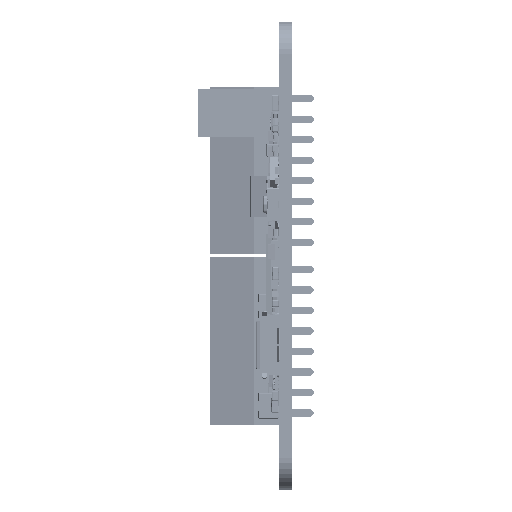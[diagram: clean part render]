
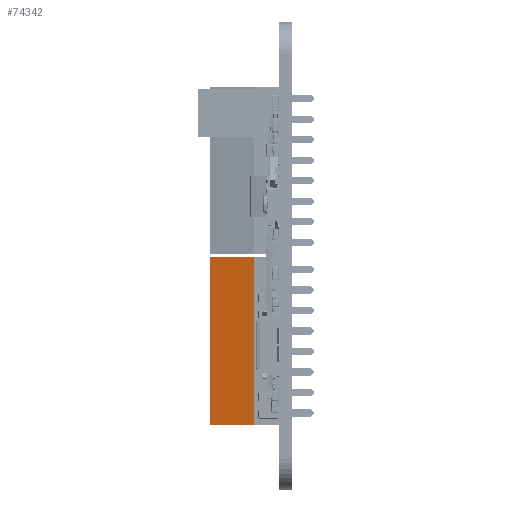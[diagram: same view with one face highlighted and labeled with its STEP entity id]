
A CAD part, left-side view. The second image highlights one B-rep face of the part: STEP entity #74342.
In plain terms, the highlighted planar face has unit normal (-0.977, 0.213, 0) as drawn and (0.977, 0.213, 0) by its records, which use the part's own axes.
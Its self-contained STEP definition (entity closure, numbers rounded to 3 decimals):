
#74342 = ADVANCED_FACE ( 'NONE', ( #448514 ), #480793, .T. ) ;
#121342 = VECTOR ( 'NONE', #165941, 1000. ) ;
#121358 = LINE ( 'NONE', #165999, #121342 ) ;
#121467 = LINE ( 'NONE', #166540, #121497 ) ;
#121497 = VECTOR ( 'NONE', #166544, 1000. ) ;
#129282 = LINE ( 'NONE', #164988, #129329 ) ;
#129329 = VECTOR ( 'NONE', #164992, 1000. ) ;
#155004 = ORIENTED_EDGE ( 'NONE', *, *, #325566, .F. ) ;
#155044 = ORIENTED_EDGE ( 'NONE', *, *, #325628, .T. ) ;
#155092 = ORIENTED_EDGE ( 'NONE', *, *, #412309, .F. ) ;
#155167 = ORIENTED_EDGE ( 'NONE', *, *, #325467, .F. ) ;
#164988 = CARTESIAN_POINT ( 'NONE',  ( 3.1, 3., 10.39 ) ) ;
#164992 = DIRECTION ( 'NONE',  ( -0.213, 0.977, 0. ) ) ;
#165941 = DIRECTION ( 'NONE',  ( 0.213, -0.977, 0. ) ) ;
#165999 = CARTESIAN_POINT ( 'NONE',  ( 1.9, 8.5, -10.39 ) ) ;
#166540 = CARTESIAN_POINT ( 'NONE',  ( 1.9, 8.5, 7.62 ) ) ;
#166544 = DIRECTION ( 'NONE',  ( 0., 0., 1. ) ) ;
#249788 = VERTEX_POINT ( 'NONE', #447017 ) ;
#249796 = VERTEX_POINT ( 'NONE', #447047 ) ;
#249814 = VERTEX_POINT ( 'NONE', #446997 ) ;
#249904 = VERTEX_POINT ( 'NONE', #447029 ) ;
#325467 = EDGE_CURVE ( 'NONE', #249814, #249904, #129282, .T. ) ;
#325566 = EDGE_CURVE ( 'NONE', #249796, #249788, #121358, .T. ) ;
#325628 = EDGE_CURVE ( 'NONE', #249796, #249904, #121467, .T. ) ;
#412309 = EDGE_CURVE ( 'NONE', #249788, #249814, #434896, .T. ) ;
#433956 = DIRECTION ( 'NONE',  ( 0., 0., 1. ) ) ;
#434020 = CARTESIAN_POINT ( 'NONE',  ( 3.1, 3., 7.62 ) ) ;
#434710 = VECTOR ( 'NONE', #433956, 1000. ) ;
#434896 = LINE ( 'NONE', #434020, #434710 ) ;
#446997 = CARTESIAN_POINT ( 'NONE',  ( 3.1, 3., 10.39 ) ) ;
#447017 = CARTESIAN_POINT ( 'NONE',  ( 3.1, 3., -10.39 ) ) ;
#447029 = CARTESIAN_POINT ( 'NONE',  ( 1.9, 8.5, 10.39 ) ) ;
#447047 = CARTESIAN_POINT ( 'NONE',  ( 1.9, 8.5, -10.39 ) ) ;
#448514 = FACE_OUTER_BOUND ( 'NONE', #480111, .T. ) ;
#462835 = AXIS2_PLACEMENT_3D ( 'NONE', #480779, #480989, #480831 ) ;
#480111 = EDGE_LOOP ( 'NONE', ( #155044, #155167, #155092, #155004 ) ) ;
#480779 = CARTESIAN_POINT ( 'NONE',  ( 3.1, 3., 7.62 ) ) ;
#480793 = PLANE ( 'NONE',  #462835 ) ;
#480831 = DIRECTION ( 'NONE',  ( -0.213, 0.977, 0. ) ) ;
#480989 = DIRECTION ( 'NONE',  ( 0.977, 0.213, 0. ) ) ;
